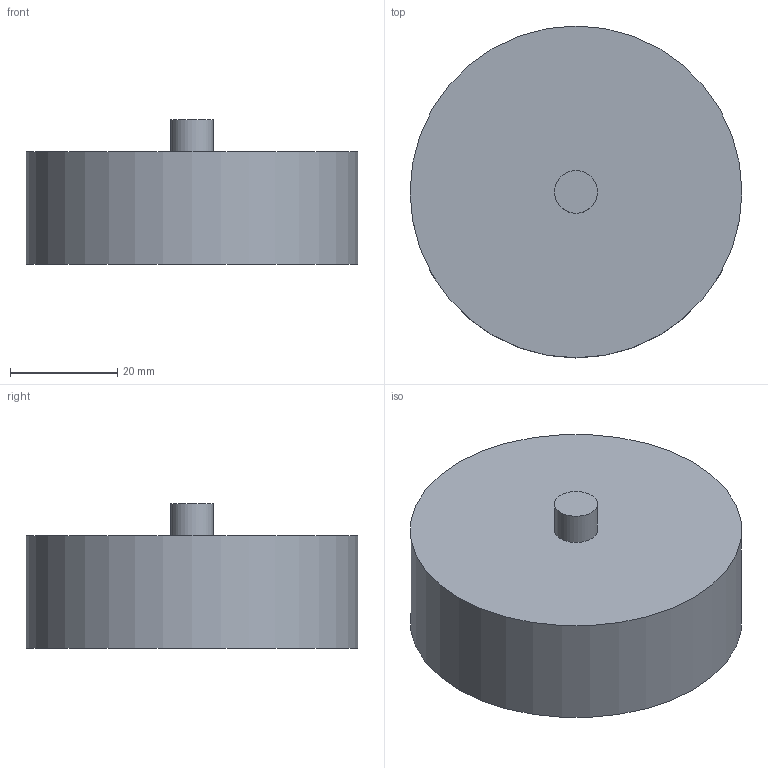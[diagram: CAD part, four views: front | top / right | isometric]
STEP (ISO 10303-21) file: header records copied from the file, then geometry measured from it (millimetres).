
FILE_DESCRIPTION(('FreeCAD Model'),'2;1');
FILE_NAME('Open CASCADE Shape Model','2026-11-09T00:40:30',('FreeCAD'),( 'FreeCAD'),'Open CASCADE STEP processor 7.8','FreeCAD','Unknown');
FILE_SCHEMA(('AUTOMOTIVE_DESIGN { 1 0 10303 214 1 1 1 1 }'));
Length unit declared in the file: millimetre
Products named in the file (1): Open CASCADE STEP translator 7.8 7
Bounding box: 62 x 62 x 27 mm (x, y, z)
Volume: 63702.1 mm3; surface area: 10279.3 mm2
Topology: 1 solids, 1 shells, 5 faces, 6 edges, 4 vertices
Faces by surface type: plane 3, cylinder 2
Full cylindrical faces by diameter (mm): 8 x1, 62 x1
Entity records: 114 total; most frequent: DIRECTION 22, CARTESIAN_POINT 16, ORIENTED_EDGE 12, AXIS2_PLACEMENT_3D 10, FACE_BOUND 6, EDGE_LOOP 6, EDGE_CURVE 6, ADVANCED_FACE 5
